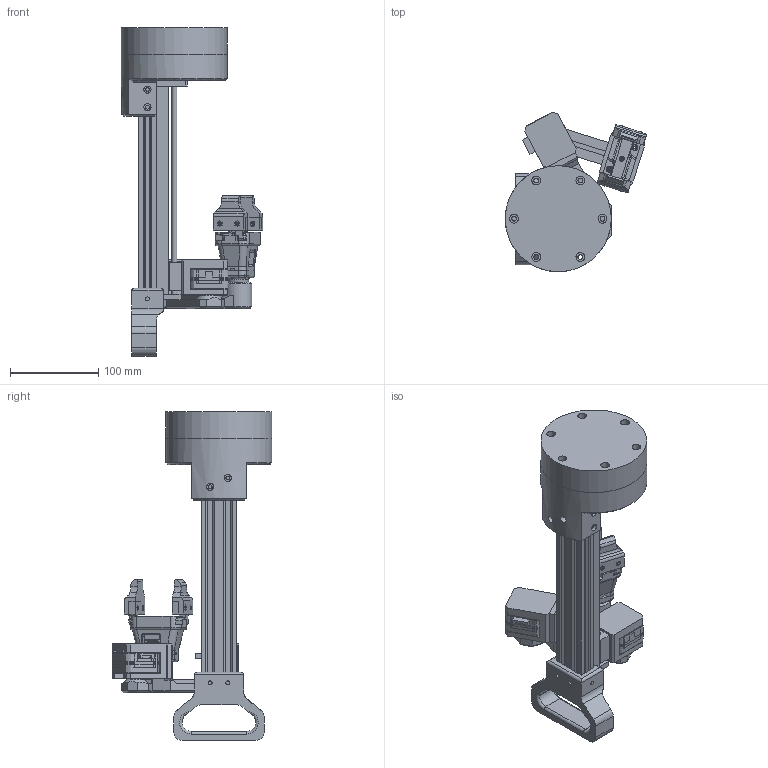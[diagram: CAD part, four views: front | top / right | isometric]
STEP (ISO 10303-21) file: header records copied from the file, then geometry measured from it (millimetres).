
FILE_DESCRIPTION(/* description */ (''),/* implementation_level */ '2;1');
FILE_NAME(/* name */ 'Assieme_scara_05.stp',/* time_stamp */ '2025-11-23T18:28:10+01:00',/* author */ ('R5800u'),/* organization */ (''),/* preprocessor_version */ 'ST-DEVELOPER v20',/* originating_system */ 'Autodesk Inventor 2025',/* authorisation */ '');
FILE_SCHEMA (('AUTOMOTIVE_DESIGN { 1 0 10303 214 3 1 1 }'));
Products named in the file (50): Assieme_scara_02; base1; blocco_motore1; AS 1420 - 1973 - M4 x 30; tslot 2040; Assieme_profilato; profilato; profilato_cuscinetto; profilato_motore; Nema11; 00144585; 00144585_01; 00144585_02; 00144585_03; 00144585_04; 00144585_05; 00144585_06; 00144585_07; 00144585_08; 00144585_09; 00144585_10; 00144585_11; 00144585_12; 00144585_13; 00144585_14; Actuator_MGN9; AS 1420 - 1973 - M3 x 6; Actuator_MGN9C; Carriage; AS 1420 - 1973 - M3 x 12; maniglia; disco_120; gripper; gripper_rail_base; gripper_finger; gripper_base_plate; MG90S_assieme_disco_ldb2; MG90_ldb; scritta_MG90s; MG90S 9g Micro Servo Medium Horn 12 holes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
Assembly tree (66 placements, depth 4):
  Assieme_scara_02
    base1
    blocco_motore1
    AS 1420 - 1973 - M4 x 30  x4
    tslot 2040
    Assieme_profilato
      profilato
      profilato_cuscinetto
      profilato_motore
      Nema11
      00144585
        00144585_01
        00144585_02
        00144585_03
        00144585_04
        00144585_05
        00144585_06
        00144585_07
        00144585_08
        00144585_09
        00144585_10
        00144585_11
        00144585_12
        00144585_13
        00144585_14
      Actuator_MGN9
      AS 1420 - 1973 - M3 x 6  x4
      Actuator_MGN9C
      Carriage
      AS 1420 - 1973 - M3 x 12  x4
    maniglia
    disco_120
    gripper
      gripper_rail_base
      gripper_finger  x2
      gripper_base_plate
      MG90S_assieme_disco_ldb2
        MG90_ldb
        scritta_MG90s  x2
      MG90S 9g Micro Servo Medium Horn 12 holes
      blocco_giunto_polso
      gripper_spur_gear v2
      dito1  x2
      AS 1420 - 1973 - M3 x 10  x5
      BS 4168 - M2,5 x 10
      AS 1427 - M2 x 12
    nema17  x2
    braccio_nema17
    blocco_motore2
    braccio_2_nema17
Bounding box: 160.11 x 181.05 x 372 mm (x, y, z)
Volume: 1283003.1 mm3; surface area: 403118.5 mm2
Topology: 70 solids, 74 shells, 2933 faces, 8148 edges, 5517 vertices
Faces by surface type: plane 1756, cylinder 795, cone 130, bspline 102, torus 94, sphere 56
Full cylindrical faces by diameter (mm): 1.03 x6, 1.167 x3, 1.2 x2, 1.5 x2, 1.6 x2, 1.755 x1, 2 x3, 2.05 x4, 2.2 x1, 2.3 x4, 2.4 x8, 2.459 x6, 2.47 x1, 2.5 x20, 2.8 x4, 2.9 x12, 3 x15, 3.2 x52, 3.242 x4, 3.4 x12, 3.5 x13, 4 x5, 4.3 x6, 4.5 x5, 4.69 x1, 4.8 x1, 5 x5, 5.1 x2, 5.3 x6, 5.5 x45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
Entity records: 124028 total; most frequent: CARTESIAN_POINT 61160, ORIENTED_EDGE 12662, DIRECTION 12136, EDGE_CURVE 6331, VERTEX_POINT 4274, LINE 4054, VECTOR 4054, AXIS2_PLACEMENT_3D 4041
